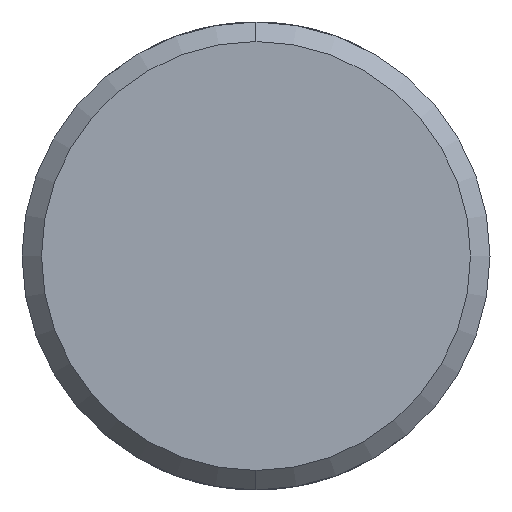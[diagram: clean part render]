
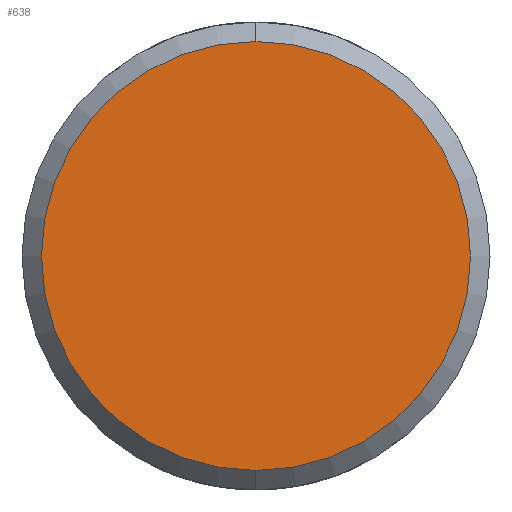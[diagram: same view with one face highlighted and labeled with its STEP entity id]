
A CAD part, left-side view. The second image highlights one B-rep face of the part: STEP entity #638.
In plain terms, the highlighted planar face has unit normal (-1, 0, 0).
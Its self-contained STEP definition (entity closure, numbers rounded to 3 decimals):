
#6 = VERTEX_POINT ( 'NONE', #146 ) ;
#15 = CARTESIAN_POINT ( 'NONE',  ( -136.5, 0., 0. ) ) ;
#19 = PLANE ( 'NONE',  #800 ) ;
#26 = DIRECTION ( 'NONE',  ( 1., 0., 0. ) ) ;
#31 = DIRECTION ( 'NONE',  ( 0., 0., -1. ) ) ;
#96 = DIRECTION ( 'NONE',  ( 0., 0., -1. ) ) ;
#146 = CARTESIAN_POINT ( 'NONE',  ( -136.5, 0., -5.5 ) ) ;
#190 = DIRECTION ( 'NONE',  ( 0., 0., -1. ) ) ;
#195 = EDGE_CURVE ( 'NONE', #6, #331, #948, .T. ) ;
#263 = CARTESIAN_POINT ( 'NONE',  ( -136.5, 0., 0. ) ) ;
#274 = CARTESIAN_POINT ( 'NONE',  ( -136.5, 0., 0. ) ) ;
#331 = VERTEX_POINT ( 'NONE', #905 ) ;
#413 = DIRECTION ( 'NONE',  ( -1., 0., 0. ) ) ;
#508 = ORIENTED_EDGE ( 'NONE', *, *, #195, .T. ) ;
#510 = DIRECTION ( 'NONE',  ( -1., 0., 0. ) ) ;
#519 = FACE_OUTER_BOUND ( 'NONE', #576, .T. ) ;
#576 = EDGE_LOOP ( 'NONE', ( #508, #719 ) ) ;
#638 = ADVANCED_FACE ( 'NONE', ( #519 ), #19, .F. ) ;
#659 = CIRCLE ( 'NONE', #707, 5.5 ) ;
#672 = EDGE_CURVE ( 'NONE', #331, #6, #659, .T. ) ;
#707 = AXIS2_PLACEMENT_3D ( 'NONE', #263, #413, #96 ) ;
#719 = ORIENTED_EDGE ( 'NONE', *, *, #672, .T. ) ;
#800 = AXIS2_PLACEMENT_3D ( 'NONE', #15, #26, #190 ) ;
#905 = CARTESIAN_POINT ( 'NONE',  ( -136.5, 0., 5.5 ) ) ;
#948 = CIRCLE ( 'NONE', #963, 5.5 ) ;
#963 = AXIS2_PLACEMENT_3D ( 'NONE', #274, #510, #31 ) ;
